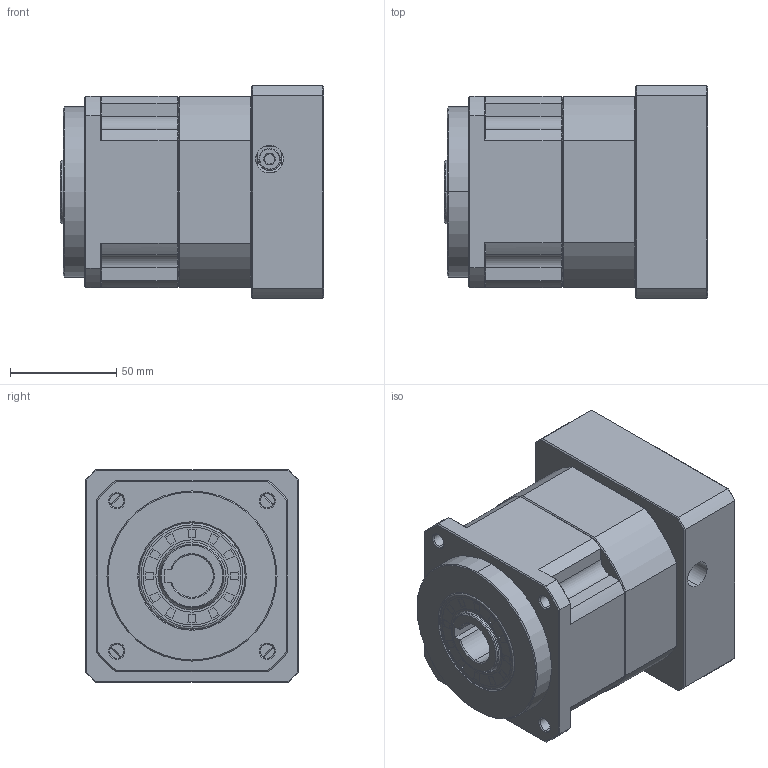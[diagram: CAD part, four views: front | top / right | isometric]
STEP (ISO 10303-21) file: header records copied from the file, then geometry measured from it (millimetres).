
FILE_DESCRIPTION (( 'STEP AP214' ), '1' );
FILE_NAME ('ZPB090-K20-L1-P1-19-95-115-M8.step', '2024-06-07T18:24:28', ( 'Windows 蚚誧' ), ( 'Organization' ), 'SwSTEP 2.0', 'SolidWorks 2016', '' );
FILE_SCHEMA (( 'AUTOMOTIVE_DESIGN' ));
Length unit declared in the file: millimetre
Products named in the file (1): ZPB090-K20-L1-P1-19-95-115-M8
Bounding box: 124 x 100 x 100 mm (x, y, z)
Surface area: 86074.7 mm2 (no closed solid volume)
Topology: 0 solids, 34 shells, 1792 faces, 4787 edges, 3062 vertices
Faces by surface type: plane 926, bspline 383, cone 270, cylinder 213
Entity records: 86638 total; most frequent: CARTESIAN_POINT 40178, ORIENTED_EDGE 9554, DIRECTION 7348, EDGE_CURVE 4787, VECTOR 3174, LINE 3174, VERTEX_POINT 3062, AXIS2_PLACEMENT_3D 2087
